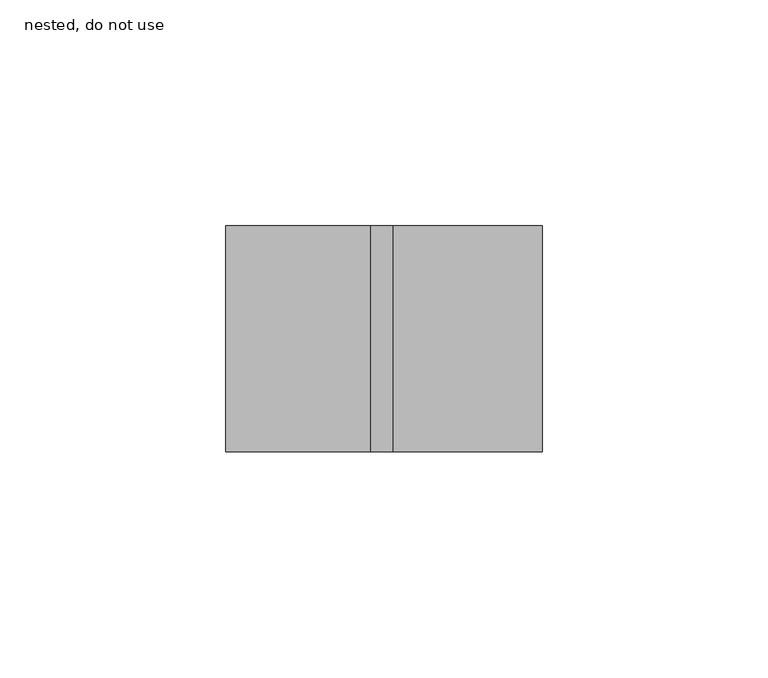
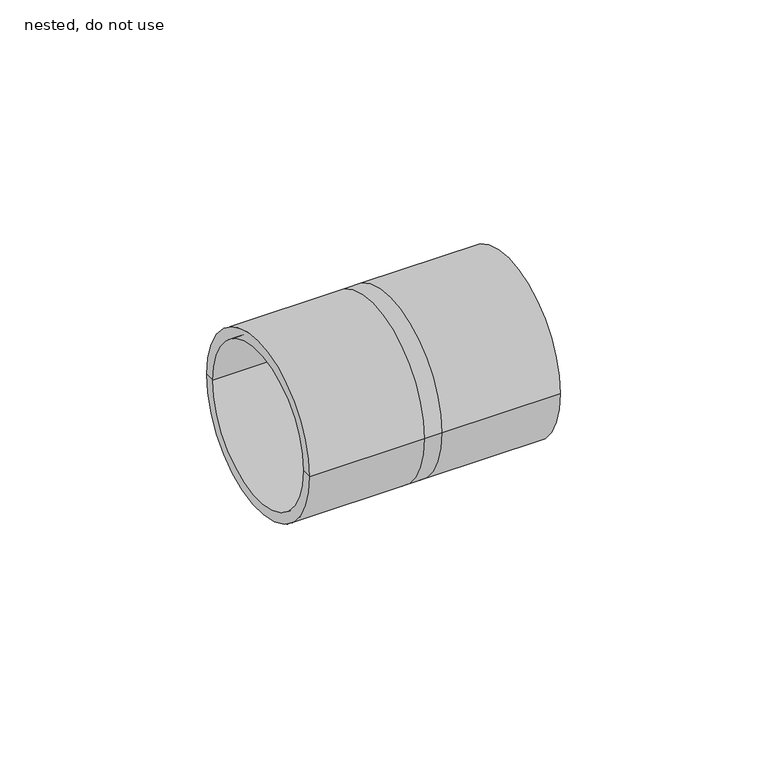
"""IFC4 building model written with IfcOpenShell, lengths in millimetres: pipe fitting geometry, ZZZ_do no use_PIF_HDPE female thread adapter -SH_Akatherm : nested, do not use."""

import ifcopenshell
import ifcopenshell.guid

model = None  # the IFC model being written
_history = None  # IfcOwnerHistory: only IFC2X3 demands one
_inside = {}  # id of a spatial element -> (the spatial element, [elements in it])
_under = {}  # id of a project, library or spatial element -> (it, [spatial elements below it])
_declared = {}  # id of a project -> (the project, [libraries it declares])
_typed = {}  # id of a type object -> (the type object, [elements of that type])
_made_of = {}  # id of a material, layer set ... -> (it, [elements and type objects made of it])


def new_model(schema):
    """Start an empty IFC model of exactly this schema.

    Asked for "IFC4X3", IfcOpenShell would pick the latest addendum, in which some entities
    have other attributes; the version numbers below select the first issue.
    IFC2X3 requires an IfcOwnerHistory on every rooted entity: one is made here for all.
    """
    global model, _history
    if schema == "IFC4X3":
        model = ifcopenshell.file(schema_version=(4, 3, 0, 0))
    else:
        model = ifcopenshell.file(schema=schema)
    _inside.clear()
    _under.clear()
    _declared.clear()
    _typed.clear()
    _made_of.clear()
    _history = None
    if model.schema == "IFC2X3":
        org = make("IfcOrganization", Name="unknown")
        user = make(
            "IfcPersonAndOrganization",
            ThePerson=make("IfcPerson", FamilyName="unknown"),
            TheOrganization=org,
        )
        app = make(
            "IfcApplication",
            ApplicationDeveloper=org,
            Version="unknown",
            ApplicationFullName="unknown",
            ApplicationIdentifier="unknown",
        )
        _history = make(
            "IfcOwnerHistory",
            OwningUser=user,
            OwningApplication=app,
            ChangeAction="ADDED",
            CreationDate=0,
        )
    return model


def make(cls, **values):
    """One entity of the class cls with the attributes given. An attribute that is None is left unset."""
    return model.create_entity(
        cls, **{name: value for name, value in values.items() if value is not None}
    )


def rooted(cls, **values):
    """An entity with a GlobalId (a new one), such as an element, a storey or a relation."""
    return make(cls, GlobalId=ifcopenshell.guid.new(), OwnerHistory=_history, **values)


def si_unit(unit_type, name, prefix=None):
    """IfcSIUnit, for example si_unit("LENGTHUNIT", "METRE", prefix="MILLI")."""
    return make("IfcSIUnit", UnitType=unit_type, Prefix=prefix, Name=name)


def assignment(units):
    """IfcUnitAssignment: the units of a project."""
    return None if units is None else make("IfcUnitAssignment", Units=units)


def point(xyz):
    """IfcCartesianPoint."""
    return None if xyz is None else make("IfcCartesianPoint", Coordinates=xyz)


def direction(xyz):
    """IfcDirection."""
    return None if xyz is None else make("IfcDirection", DirectionRatios=xyz)


def frame(location, z_axis=None, x_axis=None):
    """IfcAxis2Placement3D, a coordinate frame: its origin and axes. An axis left out is left unset."""
    return make(
        "IfcAxis2Placement3D",
        Location=point(location),
        Axis=direction(z_axis),
        RefDirection=direction(x_axis),
    )


def origin():
    """The frame at (0, 0, 0) with its axes left unset."""
    return frame((0.0, 0.0, 0.0))


def place(relative_to, where):
    """IfcLocalPlacement: puts the frame where relative to a parent placement (None: the world)."""
    return make(
        "IfcLocalPlacement", PlacementRelTo=relative_to, RelativePlacement=where
    )


def context(
    kind, dimensions, precision=None, world=None, true_north=None, identifier=None
):
    """IfcGeometricRepresentationContext, for example the 3D "Model" context."""
    return make(
        "IfcGeometricRepresentationContext",
        ContextIdentifier=identifier,
        ContextType=kind,
        CoordinateSpaceDimension=dimensions,
        Precision=precision,
        WorldCoordinateSystem=world,
        TrueNorth=true_north,
    )


def project(units=None, contexts=None):
    """IfcProject with its units and contexts."""
    return rooted(
        "IfcProject",
        Name="project",
        RepresentationContexts=contexts,
        UnitsInContext=assignment(units),
    )


def spatial(cls, under=None, at=None, **own):
    """A site, building, storey or space (cls), placed at a placement, below another one or the project."""
    s = rooted(cls, ObjectPlacement=at, **own)
    if under is not None:
        _under.setdefault(under.id(), (under, []))[1].append(s)
    return s


def polyline(points):
    """IfcPolyline through the points."""
    return make("IfcPolyline", Points=[point(p) for p in points])


def circle_curve(where, radius):
    """IfcCircle in the frame where."""
    return make("IfcCircle", Position=where, Radius=radius)


def shape(context_of_items, identifier, shape_type, items):
    """IfcShapeRepresentation: the items that make up one representation, for example the "Body"."""
    return make(
        "IfcShapeRepresentation",
        ContextOfItems=context_of_items,
        RepresentationIdentifier=identifier,
        RepresentationType=shape_type,
        Items=items,
    )


def source(mapping_origin, context_of_items, identifier, shape_type, items):
    """IfcRepresentationMap: a shape defined once, which mapped items show again and again."""
    return make(
        "IfcRepresentationMap",
        MappingOrigin=mapping_origin,
        MappedRepresentation=shape(context_of_items, identifier, shape_type, items),
    )


def transform(
    local_origin,
    x_axis=None,
    y_axis=None,
    z_axis=None,
    scale=None,
    scale2=None,
    scale3=None,
    uniform=True,
):
    """IfcCartesianTransformationOperator3D, or its non-uniform kind. x_axis, y_axis, z_axis: its Axis1, 2, 3."""
    if uniform:
        return make(
            "IfcCartesianTransformationOperator3D",
            Axis1=direction(x_axis),
            Axis2=direction(y_axis),
            LocalOrigin=point(local_origin),
            Scale=scale,
            Axis3=direction(z_axis),
        )
    return make(
        "IfcCartesianTransformationOperator3DnonUniform",
        Axis1=direction(x_axis),
        Axis2=direction(y_axis),
        LocalOrigin=point(local_origin),
        Scale=scale,
        Axis3=direction(z_axis),
        Scale2=scale2,
        Scale3=scale3,
    )


def mapped(mapping_source, mapping_target):
    """IfcMappedItem: shows the shape of a source again, moved by a transform."""
    return make(
        "IfcMappedItem", MappingSource=mapping_source, MappingTarget=mapping_target
    )


def made_of(thing, what):
    """Note that an element or type object is made of a material, layer set ...; save() writes the relation."""
    if what is not None:
        _made_of.setdefault(what.id(), (what, []))[1].append(thing)
    return thing


def element(
    cls,
    number,
    at=None,
    inside=None,
    cuts=None,
    type_object=None,
    material=None,
    context=None,
    identifier="Body",
    shape_type=None,
    held_by="IfcProductDefinitionShape",
    body=None,
    shapes=None,
    **own,
):
    """One element of the class cls, such as IfcWall. Its Tag is "e" and its number.

    at: its placement. inside: the storey or other place that contains it. cuts: it is an
    opening in that element (IfcRelVoidsElement). A single representation is given by context,
    identifier, shape_type and body (its items); several are given by shapes. held_by: the class
    of the entity that holds the representations. save() writes the other relations.
    """
    e = rooted(cls, Tag="e%d" % number, ObjectPlacement=at, **own)
    if body is not None:
        shapes = [shape(context, identifier, shape_type, body)]
    if shapes is not None:
        e.Representation = make(held_by, Representations=shapes)
    if inside is not None:
        _inside.setdefault(inside.id(), (inside, []))[1].append(e)
    if cuts is not None:
        rooted(
            "IfcRelVoidsElement", RelatingBuildingElement=cuts, RelatedOpeningElement=e
        )
    if type_object is not None:
        _typed.setdefault(type_object.id(), (type_object, []))[1].append(e)
    return made_of(e, material)


def aggregate(whole, parts):
    """IfcRelAggregates: a whole, such as a stair, and the parts it consists of."""
    return rooted("IfcRelAggregates", RelatingObject=whole, RelatedObjects=parts)


def save(model, path):
    """Write the relations noted so far, then the file.

    IfcRelAggregates (storeys below a building ...), IfcRelContainedInSpatialStructure (elements
    in a storey), IfcRelDefinesByType, IfcRelAssociatesMaterial and IfcRelDeclares: one each for
    every whole, place, type object, material and project.
    """
    for whole, parts in _under.values():
        aggregate(whole, parts)
    for where, things in _inside.values():
        rooted(
            "IfcRelContainedInSpatialStructure",
            RelatedElements=things,
            RelatingStructure=where,
        )
    for kind, things in _typed.values():
        rooted("IfcRelDefinesByType", RelatedObjects=things, RelatingType=kind)
    for what, things in _made_of.values():
        rooted("IfcRelAssociatesMaterial", RelatedObjects=things, RelatingMaterial=what)
    for by, libraries in _declared.values():
        rooted("IfcRelDeclares", RelatingContext=by, RelatedDefinitions=libraries)
    model.write(path)


def plane_surface(at):
    """IfcPlane: the flat surface through the origin of the frame at, square to its z axis."""
    return make("IfcPlane", Position=at)


def cylinder_surface(at, radius):
    """IfcCylindricalSurface: all points at the distance radius from the z axis of the frame at."""
    return make("IfcCylindricalSurface", Position=at, Radius=radius)


def revolved_surface(curve, axis_point, axis_direction):
    """IfcSurfaceOfRevolution: the curve turned about the line through axis_point along axis_direction."""
    return make(
        "IfcSurfaceOfRevolution",
        SweptCurve=make("IfcArbitraryOpenProfileDef", ProfileType="CURVE", Curve=curve),
        AxisPosition=make("IfcAxis1Placement", Location=point(axis_point), Axis=direction(axis_direction)),
    )


def advanced_brep(points, edges, surfaces, faces):
    """IfcAdvancedBrep: a solid bounded by faces that lie on surfaces and meet in shared edges.

    An edge is (start, end): straight between two places in points (the first is 0);
    or (start, end, curve); or (start, end, curve, False) where it runs against its curve.
    A face is (place in surfaces, loops), or (place, loops, False) where it looks against
    its surface's normal. A loop lists edges by number (the first is 1), with a minus sign
    where the edge is run from its end to its start. The first loop is the outer one.
    """
    corners = [point(p) for p in points]
    vertices = [make("IfcVertexPoint", VertexGeometry=c) for c in corners]
    made = []
    for start, end, *more in edges:
        made.append(
            make(
                "IfcEdgeCurve",
                EdgeStart=vertices[start],
                EdgeEnd=vertices[end],
                EdgeGeometry=more[0] if more else make("IfcPolyline", Points=[corners[start], corners[end]]),
                SameSense=more[1] if len(more) > 1 else True,
            )
        )
    hull = []
    for where, loops, *sense in faces:
        bounds = []
        for j, loop in enumerate(loops):
            ring = [make("IfcOrientedEdge", EdgeElement=made[abs(k) - 1], Orientation=k > 0) for k in loop]
            bounds.append(
                make(
                    "IfcFaceOuterBound" if j == 0 else "IfcFaceBound",
                    Bound=make("IfcEdgeLoop", EdgeList=ring),
                    Orientation=True,
                )
            )
        hull.append(make("IfcAdvancedFace", Bounds=bounds, FaceSurface=surfaces[where], SameSense=sense[0] if sense else True))
    return make("IfcAdvancedBrep", Outer=make("IfcClosedShell", CfsFaces=hull))


def nested_do_not_use_db0ed7d6(model_context):
    return source(origin(), model_context, "Body", "AdvancedBrep", [
        advanced_brep(
        [(-3.0, -22.0, 0.0), (-3.0, 22.0, 0.0), (-35.0, 22.0, 0.0), (-35.0, -22.0, 0.0), (2.0, -12.7, 0.0), (2.0, 12.7, 0.0), (35.0, -12.7, 0.0), (35.0, 12.7, 0.0), (35.0, -25.0, 0.0), (35.0, 25.0, 0.0), (-35.0, -25.0, 0.0), (-35.0, 25.0, 0.0), (-3.0, 25.0, 0.0), (-3.0, -25.0, 0.0), (2.0, -25.0, 0.0), (2.0, 25.0, 0.0)],
        [
            (0, 1, circle_curve(frame((-3.0, 0.0, 0.0), z_axis=(1.0, 0.0, 0.0), x_axis=(0.0, 1.0, 0.0)), 22.0)),
            (1, 2),
            (2, 3, circle_curve(frame((-35.0, 0.0, 0.0), z_axis=(-1.0, 0.0, 0.0), x_axis=(0.0, 1.0, 0.0)), 22.0)),
            (3, 0),
            (1, 0, circle_curve(frame((-3.0, 0.0, 0.0), z_axis=(1.0, 0.0, 0.0), x_axis=(0.0, 1.0, 0.0)), 22.0)),
            (3, 2, circle_curve(frame((-35.0, 0.0, 0.0), z_axis=(-1.0, 0.0, 0.0), x_axis=(0.0, 1.0, 0.0)), 22.0)),
            (4, 5, circle_curve(frame((2.0, 0.0, 0.0), z_axis=(1.0, 0.0, 0.0), x_axis=(0.0, 1.0, 0.0)), 12.7)),
            (5, 1),
            (0, 4),
            (5, 4, circle_curve(frame((2.0, 0.0, 0.0), z_axis=(1.0, 0.0, 0.0), x_axis=(0.0, 1.0, 0.0)), 12.7)),
            (6, 7, circle_curve(frame((35.0, 0.0, 0.0), z_axis=(1.0, 0.0, 0.0), x_axis=(0.0, 1.0, 0.0)), 12.7)),
            (7, 5),
            (4, 6),
            (7, 6, circle_curve(frame((35.0, 0.0, 0.0), z_axis=(1.0, 0.0, 0.0), x_axis=(0.0, 1.0, 0.0)), 12.7)),
            (8, 9, circle_curve(frame((35.0, 0.0, 0.0), z_axis=(1.0, 0.0, 0.0), x_axis=(0.0, 1.0, 0.0)), 25.0)),
            (9, 7),
            (6, 8),
            (9, 8, circle_curve(frame((35.0, 0.0, 0.0), z_axis=(1.0, 0.0, 0.0), x_axis=(0.0, 1.0, 0.0)), 25.0)),
            (10, 11, circle_curve(frame((-35.0, 0.0, 0.0), z_axis=(1.0, 0.0, 0.0), x_axis=(0.0, 1.0, 0.0)), 25.0)),
            (11, 12),
            (12, 13, circle_curve(frame((-3.0, 0.0, 0.0), z_axis=(-1.0, 0.0, 0.0), x_axis=(0.0, 1.0, 0.0)), 25.0)),
            (13, 10),
            (11, 10, circle_curve(frame((-35.0, 0.0, 0.0), z_axis=(1.0, 0.0, 0.0), x_axis=(0.0, 1.0, 0.0)), 25.0)),
            (13, 12, circle_curve(frame((-3.0, 0.0, 0.0), z_axis=(-1.0, 0.0, 0.0), x_axis=(0.0, 1.0, 0.0)), 25.0)),
            (2, 11),
            (10, 3),
            (14, 15, circle_curve(frame((2.0, 0.0, 0.0), z_axis=(1.0, 0.0, 0.0), x_axis=(0.0, 1.0, 0.0)), 25.0)),
            (15, 9),
            (8, 14),
            (15, 14, circle_curve(frame((2.0, 0.0, 0.0), z_axis=(1.0, 0.0, 0.0), x_axis=(0.0, 1.0, 0.0)), 25.0)),
            (12, 15),
            (14, 13),
        ],
        [
            revolved_surface(polyline([(-35.00000000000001, 22.0, 0.0), (-3.000000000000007, 22.0, 0.0)]), (63.5733983, 0.0, 0.0), (-1.0, 0.0, 0.0)),
            revolved_surface(polyline([(-3.0, 22.0, 0.0), (2.0, 12.7, 0.0)]), (63.5733983, 0.0, 0.0), (-1.0, 0.0, 0.0)),
            revolved_surface(polyline([(2.0, 12.7, 0.0), (35.0, 12.7, 0.0)]), (63.5733983, 0.0, 0.0), (-1.0, 0.0, 0.0)),
            plane_surface(frame((35.0, 0.0, 0.0), z_axis=(1.0, 0.0, 0.0), x_axis=(0.0, 1.0, 0.0))),
            cylinder_surface(frame((63.5733983, 0.0, 0.0), z_axis=(-1.0, 0.0, 0.0), x_axis=(0.0, 1.0, 0.0)), 25.0),
            plane_surface(frame((-35.0, 0.0, 0.0), z_axis=(-1.0, 0.0, 0.0), x_axis=(0.0, 1.0, 0.0))),
        ],
        [
            (0, [[1, 2, 3, 4]]),
            (0, [[5, -4, 6, -2]]),
            (1, [[7, 8, -1, 9]]),
            (1, [[10, -9, -5, -8]]),
            (2, [[11, 12, -7, 13]]),
            (2, [[14, -13, -10, -12]]),
            (3, [[15, 16, -11, 17]]),
            (3, [[18, -17, -14, -16]]),
            (4, [[19, 20, 21, 22]]),
            (4, [[23, -22, 24, -20]]),
            (5, [[-3, 25, -19, 26]]),
            (5, [[-6, -26, -23, -25]]),
            (4, [[27, 28, -15, 29]]),
            (4, [[30, -29, -18, -28]]),
            (4, [[-21, 31, -27, 32]]),
            (4, [[-24, -32, -30, -31]]),
        ],
    ),
    ])


if __name__ == "__main__":
    model = new_model("IFC4")
    model_context = context("Model", 3, world=origin())
    ifc_project = project(units=[si_unit("LENGTHUNIT", "METRE", prefix="MILLI")], contexts=[model_context])
    site = spatial("IfcSite", under=ifc_project)
    building = spatial("IfcBuilding", under=site)
    placement = place(None, origin())
    nested_do_not_use_shape = nested_do_not_use_db0ed7d6(model_context)
    element("IfcPipeFitting", 1, ObjectType="ZZZ_do no use_PIF_HDPE female thread adapter -SH_Akatherm : nested, do not use", at=placement, inside=building, context=model_context, shape_type="MappedRepresentation", body=[
        mapped(nested_do_not_use_shape, transform((0.0, 0.0, 0.0), x_axis=(1.0, 0.0, 0.0), y_axis=(0.0, 1.0, 0.0), z_axis=(0.0, 0.0, 1.0))),
    ])
    save(model, "model.ifc")
